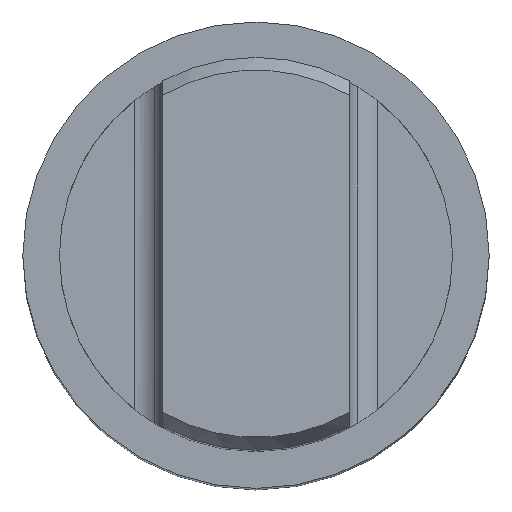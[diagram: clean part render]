
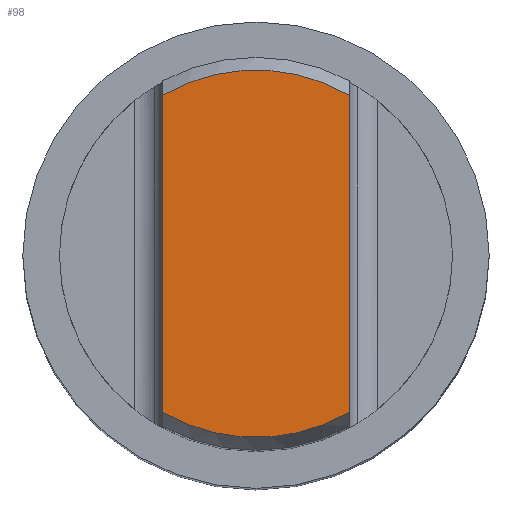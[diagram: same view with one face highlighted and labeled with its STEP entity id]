
A CAD part, top view. The second image highlights one B-rep face of the part: STEP entity #98.
In plain terms, the highlighted planar face has unit normal (0, 0, 1).
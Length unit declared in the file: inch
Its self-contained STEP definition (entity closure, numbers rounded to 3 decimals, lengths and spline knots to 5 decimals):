
#98=ADVANCED_FACE('',(#235),#236,.F.);
#235=FACE_OUTER_BOUND('',#437,.T.);
#236=PLANE('',#438);
#437=EDGE_LOOP('',(#621,#622,#623,#624));
#438=AXIS2_PLACEMENT_3D('',#625,#626,#627);
#621=ORIENTED_EDGE('',*,*,#1117,.F.);
#622=ORIENTED_EDGE('',*,*,#1118,.T.);
#623=ORIENTED_EDGE('',*,*,#1119,.F.);
#624=ORIENTED_EDGE('',*,*,#1120,.T.);
#625=CARTESIAN_POINT('',(0.,-0.31387,2.8025));
#626=DIRECTION('',(0.,0.,-1.0));
#627=DIRECTION('',(1.0,0.,0.));
#1117=EDGE_CURVE('',#1309,#1310,#1311,.T.);
#1118=EDGE_CURVE('',#1309,#1312,#1313,.T.);
#1119=EDGE_CURVE('',#1314,#1312,#1315,.T.);
#1120=EDGE_CURVE('',#1314,#1310,#1316,.T.);
#1309=VERTEX_POINT('',#1591);
#1310=VERTEX_POINT('',#1592);
#1311=LINE('',#1593,#1594);
#1312=VERTEX_POINT('',#1595);
#1313=CIRCLE('',#1596,0.19699);
#1314=VERTEX_POINT('',#1597);
#1315=LINE('',#1598,#1599);
#1316=CIRCLE('',#1600,0.19699);
#1591=CARTESIAN_POINT('',(0.1,-0.14415,2.8025));
#1592=CARTESIAN_POINT('',(0.1,-0.48359,2.8025));
#1593=CARTESIAN_POINT('',(0.1,-0.41722,2.8025));
#1594=VECTOR('',#2150,0.3937);
#1595=CARTESIAN_POINT('',(-0.1,-0.14415,2.8025));
#1596=AXIS2_PLACEMENT_3D('',#2151,#2152,#2153);
#1597=CARTESIAN_POINT('',(-0.1,-0.48359,2.8025));
#1598=CARTESIAN_POINT('',(-0.1,-0.41722,2.8025));
#1599=VECTOR('',#2154,0.3937);
#1600=AXIS2_PLACEMENT_3D('',#2155,#2156,#2157);
#2150=DIRECTION('',(0.,-1.0,0.));
#2151=CARTESIAN_POINT('',(0.,-0.31387,2.8025));
#2152=DIRECTION('',(0.,0.,1.0));
#2153=DIRECTION('',(-1.0,0.,0.));
#2154=DIRECTION('',(0.,1.0,0.));
#2155=CARTESIAN_POINT('',(0.,-0.31387,2.8025));
#2156=DIRECTION('',(0.,0.,1.0));
#2157=DIRECTION('',(-1.0,0.,0.));
